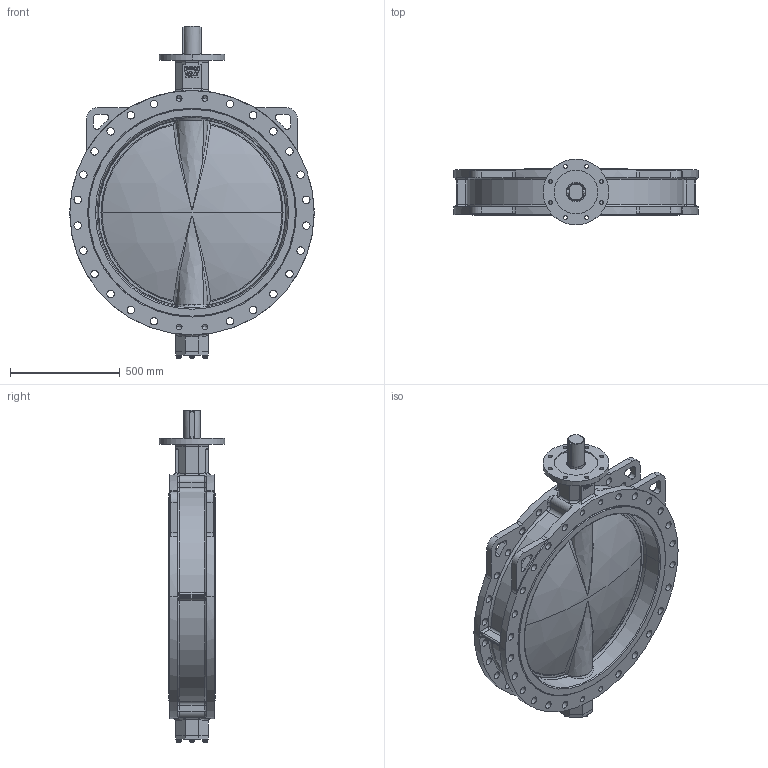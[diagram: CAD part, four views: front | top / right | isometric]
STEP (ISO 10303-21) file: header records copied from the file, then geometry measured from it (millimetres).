
FILE_DESCRIPTION(('Open CASCADE Model'),'2;1');
FILE_NAME('Open CASCADE Shape Model','2022-03-10T16:04:39',('Author'),( 'Open CASCADE'),'Open CASCADE STEP processor 7.3','Open CASCADE 7.3' ,'Unknown');
FILE_SCHEMA(('AUTOMOTIVE_DESIGN { 1 0 10303 214 1 1 1 1 }'));
Length unit declared in the file: millimetre
Products named in the file (21): Open CASCADE STEP translator 7.3 1; Open CASCADE STEP translator 7.3 1.1; Open CASCADE STEP translator 7.3 1.2; Open CASCADE STEP translator 7.3 1.3; Open CASCADE STEP translator 7.3 1.4; Open CASCADE STEP translator 7.3 1.5; Open CASCADE STEP translator 7.3 1.6; Open CASCADE STEP translator 7.3 1.7; Open CASCADE STEP translator 7.3 1.8; Open CASCADE STEP translator 7.3 1.9; Open CASCADE STEP translator 7.3 1.10; Open CASCADE STEP translator 7.3 1.11; Open CASCADE STEP translator 7.3 1.12; Open CASCADE STEP translator 7.3 1.13; Open CASCADE STEP translator 7.3 1.14; Open CASCADE STEP translator 7.3 1.15; Open CASCADE STEP translator 7.3 1.16; Open CASCADE STEP translator 7.3 1.17; Open CASCADE STEP translator 7.3 1.18; Open CASCADE STEP translator 7.3 1.19; Open CASCADE STEP translator 7.3 1.20
Assembly tree (20 placements, depth 2):
  Open CASCADE STEP translator 7.3 1
    Open CASCADE STEP translator 7.3 1.1
    Open CASCADE STEP translator 7.3 1.2
    Open CASCADE STEP translator 7.3 1.3
    Open CASCADE STEP translator 7.3 1.4
    Open CASCADE STEP translator 7.3 1.5
    Open CASCADE STEP translator 7.3 1.6
    Open CASCADE STEP translator 7.3 1.7
    Open CASCADE STEP translator 7.3 1.8
    Open CASCADE STEP translator 7.3 1.9
    Open CASCADE STEP translator 7.3 1.10
    Open CASCADE STEP translator 7.3 1.11
    Open CASCADE STEP translator 7.3 1.12
    Open CASCADE STEP translator 7.3 1.13
    Open CASCADE STEP translator 7.3 1.14
    Open CASCADE STEP translator 7.3 1.15
    Open CASCADE STEP translator 7.3 1.16
    Open CASCADE STEP translator 7.3 1.17
    Open CASCADE STEP translator 7.3 1.18
    Open CASCADE STEP translator 7.3 1.19
    Open CASCADE STEP translator 7.3 1.20
Bounding box: 1115 x 300 x 1515.28 mm (x, y, z)
Volume: 108032055 mm3; surface area: 7606652.7 mm2
Topology: 20 solids, 20 shells, 977 faces, 2467 edges, 1546 vertices
Faces by surface type: cylinder 374, plane 349, cone 112, bspline 71, torus 59, sphere 12
Entity records: 98309 total; most frequent: CARTESIAN_POINT 50622, DIRECTION 8510, ORIENTED_EDGE 4854, PCURVE 4854, DEFINITIONAL_REPRESENTATION 4854, LINE 4158, VECTOR 4158, EDGE_CURVE 2427
